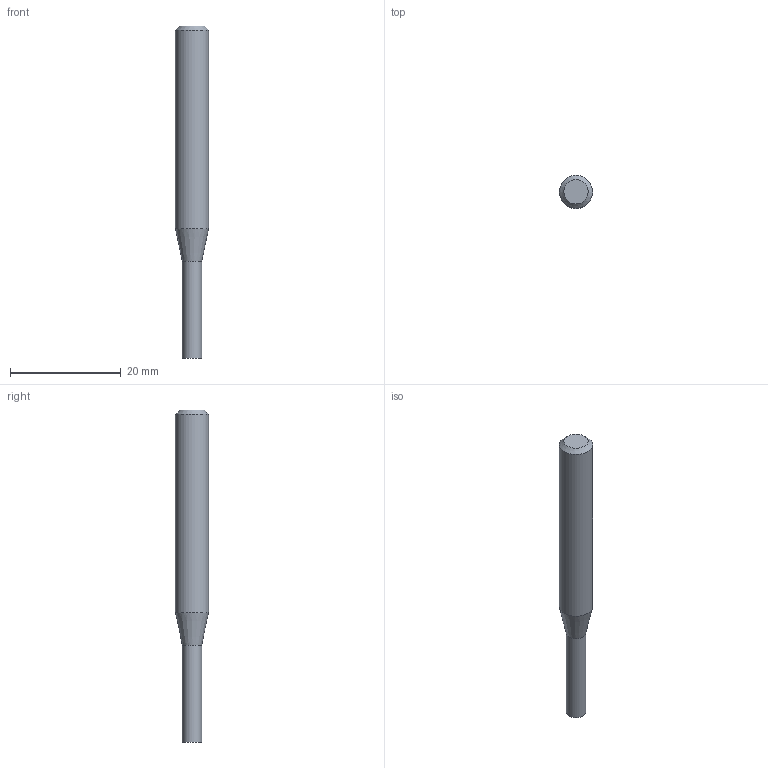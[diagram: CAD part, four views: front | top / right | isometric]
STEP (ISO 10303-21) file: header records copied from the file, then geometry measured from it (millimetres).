
FILE_DESCRIPTION((''),'2;1');
FILE_NAME('C:\Users\nsx150\AppData\Local\Temp\Mastercam 2021\E36A1X9CCL\TEMP.step','2023-04-21T15:28:12',(''),(''),'STEP Write','Mastercam 2021 ... CNC Software, Inc.','');
FILE_SCHEMA(('AUTOMOTIVE_DESIGN'));
Length unit declared in the file: millimetre
Products named in the file (1): None
Bounding box: 6 x 6 x 60 mm (x, y, z)
Volume: 1304.9 mm3; surface area: 1019.9 mm2
Topology: 2 solids, 2 shells, 8 faces, 10 edges, 6 vertices
Faces by surface type: plane 4, cylinder 2, cone 2
Full cylindrical faces by diameter (mm): 3.5 x1, 6 x1
Entity records: 190 total; most frequent: DIRECTION 32, CARTESIAN_POINT 22, AXIS2_PLACEMENT_3D 16, ORIENTED_EDGE 12, EDGE_LOOP 12, STYLED_ITEM 11, ADVANCED_FACE 8, VERTEX_POINT 6
